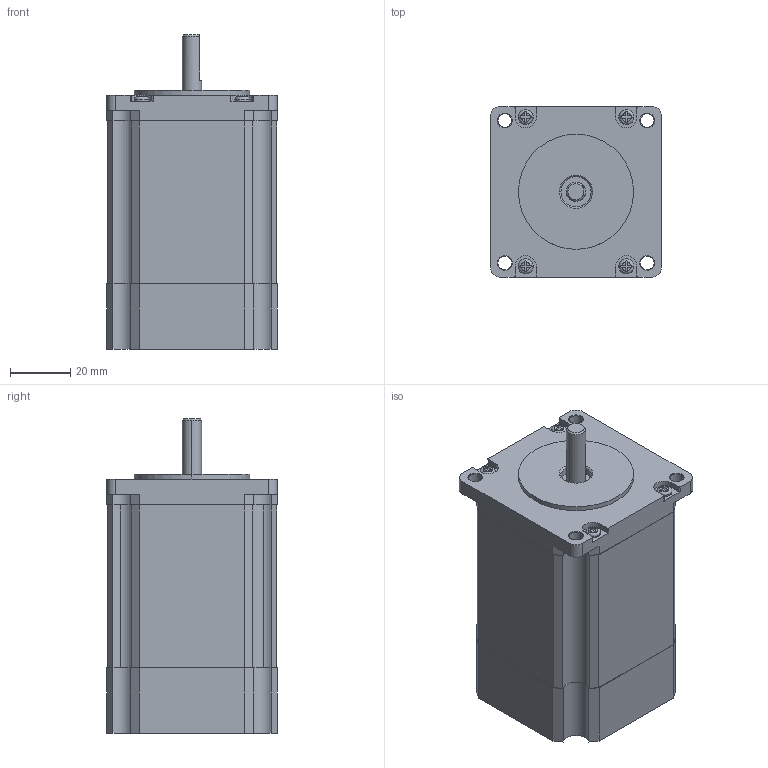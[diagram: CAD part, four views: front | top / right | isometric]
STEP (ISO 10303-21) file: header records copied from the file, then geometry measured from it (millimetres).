
FILE_DESCRIPTION (( 'STEP AP203' ), '1' );
FILE_NAME ('ssss.STEP', '2013-04-08T03:16:18', ( 'vinceliao' ), ( '' ), 'SwSTEP 2.0', 'SolidWorks 2012', '' );
FILE_SCHEMA (( 'CONFIG_CONTROL_DESIGN' ));
Length unit declared in the file: millimetre
Products named in the file (1): ssss
Bounding box: 56.4 x 56.4 x 104 mm (x, y, z)
Volume: 243409.5 mm3; surface area: 25678.4 mm2
Topology: 1 solids, 1 shells, 222 faces, 597 edges, 387 vertices
Faces by surface type: plane 114, cylinder 78, cone 22, bspline 8
Entity records: 7164 total; most frequent: CARTESIAN_POINT 1477, ORIENTED_EDGE 1194, DIRECTION 1169, EDGE_CURVE 597, AXIS2_PLACEMENT_3D 407, VERTEX_POINT 387, VECTOR 355, LINE 355
